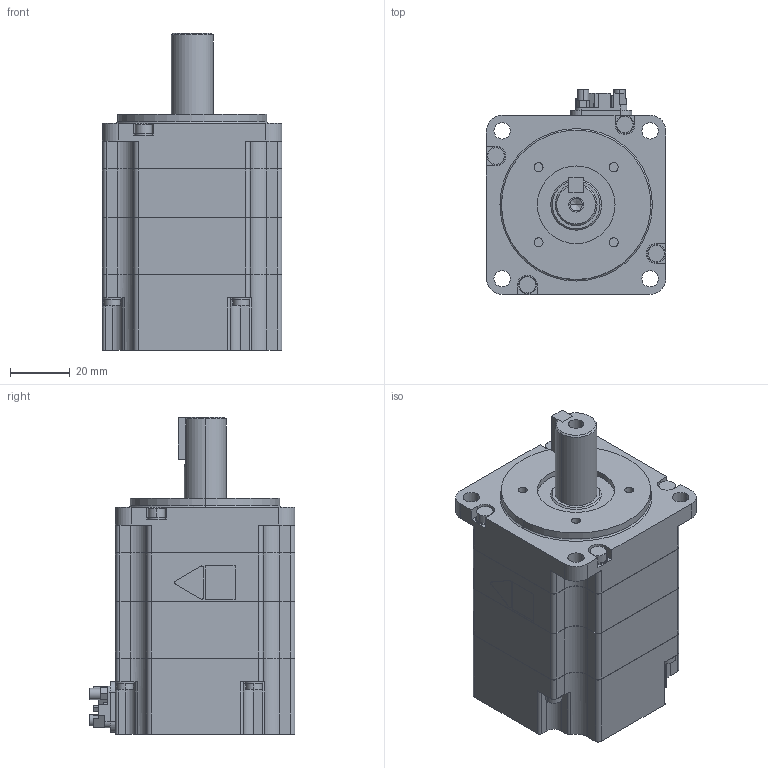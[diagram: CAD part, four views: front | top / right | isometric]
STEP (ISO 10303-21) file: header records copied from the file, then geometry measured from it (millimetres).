
FILE_DESCRIPTION( (''), '2;1');
FILE_NAME ('sgmxa_02awa61a_.stp','2023-08-25T12:06:29',(''),(''),'spGate 15.6.6','','');
FILE_SCHEMA (('AUTOMOTIVE_DESIGN'));
Length unit declared in the file: millimetre
Products named in the file (3): Assembly; sgmxa_02awa61a_-prt0; sgmxa_02awa61a_-prt1
Assembly tree (2 placements, depth 2):
  Assembly
    sgmxa_02awa61a_-prt0
    sgmxa_02awa61a_-prt1
Bounding box: 60.1 x 68.8 x 106.1 mm (x, y, z)
Volume: 250257.5 mm3; surface area: 29999.8 mm2
Topology: 2 solids, 2 shells, 446 faces, 1178 edges, 783 vertices
Faces by surface type: plane 257, cylinder 182, bspline 7
Entity records: 23338 total; most frequent: CARTESIAN_POINT 2627, DIRECTION 2360, ORIENTED_EDGE 2352, COLOUR_RGB 1624, PRESENTATION_STYLE_ASSIGNMENT 1624, STYLED_ITEM 1624, EDGE_CURVE 1176, DRAUGHTING_PRE_DEFINED_CURVE_FONT 1176
